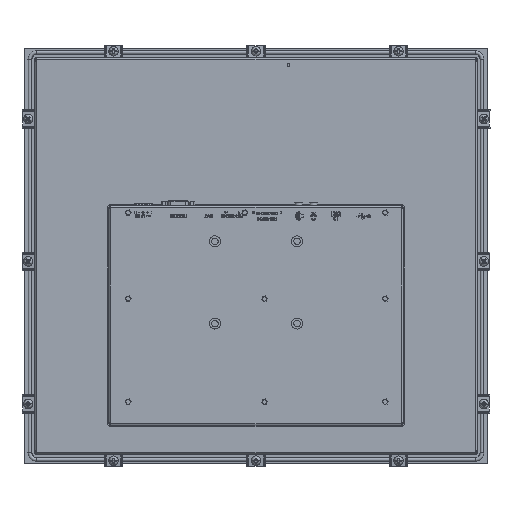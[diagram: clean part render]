
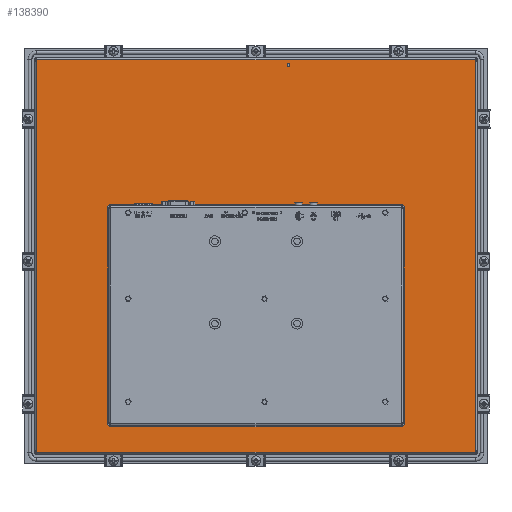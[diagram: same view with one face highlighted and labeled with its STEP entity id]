
A CAD part, front view. The second image highlights one B-rep face of the part: STEP entity #138390.
In plain terms, the highlighted planar face has unit normal (0, -1, 0).
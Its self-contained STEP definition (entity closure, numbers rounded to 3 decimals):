
#2154 = VERTEX_POINT ( 'NONE', #96864 ) ;
#4152 = EDGE_CURVE ( 'NONE', #139668, #29497, #142803, .T. ) ;
#5804 = DIRECTION ( 'NONE',  ( 0.707, 0., -0.707 ) ) ;
#9544 = DIRECTION ( 'NONE',  ( 0., 0., -1. ) ) ;
#10501 = CARTESIAN_POINT ( 'NONE',  ( 199.95, -15.75, 4.952 ) ) ;
#10710 = CARTESIAN_POINT ( 'NONE',  ( 135.25, -15.75, -148.698 ) ) ;
#11271 = EDGE_CURVE ( 'NONE', #89144, #19453, #99716, .T. ) ;
#11767 = LINE ( 'NONE', #77393, #55132 ) ;
#14535 = VECTOR ( 'NONE', #140132, 1000. ) ;
#15102 = LINE ( 'NONE', #84314, #62983 ) ;
#16590 = ORIENTED_EDGE ( 'NONE', *, *, #22568, .T. ) ;
#17271 = DIRECTION ( 'NONE',  ( 0., 0., 1. ) ) ;
#18717 = EDGE_CURVE ( 'NONE', #90326, #61122, #30271, .T. ) ;
#19453 = VERTEX_POINT ( 'NONE', #124541 ) ;
#20458 = CARTESIAN_POINT ( 'NONE',  ( 0., -15.75, 183.802 ) ) ;
#22568 = EDGE_CURVE ( 'NONE', #2154, #69998, #11767, .T. ) ;
#23054 = VERTEX_POINT ( 'NONE', #10710 ) ;
#24664 = ORIENTED_EDGE ( 'NONE', *, *, #18717, .T. ) ;
#26215 = VERTEX_POINT ( 'NONE', #94415 ) ;
#29043 = EDGE_CURVE ( 'NONE', #19453, #108483, #15102, .T. ) ;
#29497 = VERTEX_POINT ( 'NONE', #108664 ) ;
#30271 = LINE ( 'NONE', #128546, #126067 ) ;
#31359 = VECTOR ( 'NONE', #120778, 1000. ) ;
#32128 = ORIENTED_EDGE ( 'NONE', *, *, #29043, .T. ) ;
#34162 = CARTESIAN_POINT ( 'NONE',  ( 199.95, -15.75, 4.952 ) ) ;
#34817 = VECTOR ( 'NONE', #67157, 1000. ) ;
#37281 = ORIENTED_EDGE ( 'NONE', *, *, #97138, .T. ) ;
#37558 = CARTESIAN_POINT ( 'NONE',  ( 144.45, -15.75, -139.498 ) ) ;
#40474 = FACE_OUTER_BOUND ( 'NONE', #53590, .T. ) ;
#40503 = LINE ( 'NONE', #63805, #14535 ) ;
#41801 = CARTESIAN_POINT ( 'NONE',  ( 199.95, -15.75, 183.802 ) ) ;
#41995 = CARTESIAN_POINT ( 'NONE',  ( -135.25, -15.75, -148.698 ) ) ;
#43459 = ORIENTED_EDGE ( 'NONE', *, *, #127985, .T. ) ;
#43840 = VECTOR ( 'NONE', #76576, 1000. ) ;
#46038 = CARTESIAN_POINT ( 'NONE',  ( -199.95, -15.75, 4.952 ) ) ;
#48269 = VECTOR ( 'NONE', #73731, 1000. ) ;
#50708 = EDGE_CURVE ( 'NONE', #26215, #68135, #75881, .T. ) ;
#51093 = ORIENTED_EDGE ( 'NONE', *, *, #140792, .T. ) ;
#52929 = VERTEX_POINT ( 'NONE', #41995 ) ;
#53408 = DIRECTION ( 'NONE',  ( -1., 0., 0. ) ) ;
#53590 = EDGE_LOOP ( 'NONE', ( #124489, #84735, #128241, #32128, #102610, #95062, #136188, #108968 ) ) ;
#55132 = VECTOR ( 'NONE', #53408, 1000. ) ;
#55475 = LINE ( 'NONE', #20458, #43840 ) ;
#58958 = CARTESIAN_POINT ( 'NONE',  ( 133.25, -15.75, 51.802 ) ) ;
#61122 = VERTEX_POINT ( 'NONE', #58958 ) ;
#62983 = VECTOR ( 'NONE', #17271, 1000. ) ;
#63075 = CARTESIAN_POINT ( 'NONE',  ( -135.25, -15.75, -150.698 ) ) ;
#63774 = DIRECTION ( 'NONE',  ( -1., 0., 0. ) ) ;
#63805 = CARTESIAN_POINT ( 'NONE',  ( -90.05, -15.75, 95.002 ) ) ;
#65493 = CARTESIAN_POINT ( 'NONE',  ( 135.25, -15.75, 49.802 ) ) ;
#65989 = CARTESIAN_POINT ( 'NONE',  ( -199.95, -15.75, 183.802 ) ) ;
#66266 = EDGE_CURVE ( 'NONE', #69998, #52929, #128940, .T. ) ;
#67157 = DIRECTION ( 'NONE',  ( 0., 0., -1. ) ) ;
#67380 = EDGE_CURVE ( 'NONE', #68135, #89144, #110312, .T. ) ;
#68135 = VERTEX_POINT ( 'NONE', #85812 ) ;
#68438 = EDGE_CURVE ( 'NONE', #52929, #96465, #98002, .T. ) ;
#69998 = VERTEX_POINT ( 'NONE', #116605 ) ;
#70913 = EDGE_CURVE ( 'NONE', #29497, #121868, #141412, .T. ) ;
#72425 = CARTESIAN_POINT ( 'NONE',  ( -199.95, -15.75, 4.952 ) ) ;
#72835 = LINE ( 'NONE', #84479, #88035 ) ;
#73731 = DIRECTION ( 'NONE',  ( 1., 0., 0. ) ) ;
#75881 = LINE ( 'NONE', #118096, #48269 ) ;
#76576 = DIRECTION ( 'NONE',  ( -1., 0., 0. ) ) ;
#77393 = CARTESIAN_POINT ( 'NONE',  ( -135.25, -15.75, -150.698 ) ) ;
#78752 = CARTESIAN_POINT ( 'NONE',  ( -199.95, -15.75, 4.952 ) ) ;
#80331 = VECTOR ( 'NONE', #112459, 1000. ) ;
#82868 = CARTESIAN_POINT ( 'NONE',  ( -135.25, -15.75, 49.802 ) ) ;
#82888 = CARTESIAN_POINT ( 'NONE',  ( 135.25, -15.75, -150.698 ) ) ;
#84095 = EDGE_CURVE ( 'NONE', #108483, #139668, #55475, .T. ) ;
#84187 = DIRECTION ( 'NONE',  ( 1., 0., 0. ) ) ;
#84314 = CARTESIAN_POINT ( 'NONE',  ( 199.95, -15.75, 4.952 ) ) ;
#84479 = CARTESIAN_POINT ( 'NONE',  ( 90.05, -15.75, 95.002 ) ) ;
#84590 = VECTOR ( 'NONE', #105070, 1000. ) ;
#84735 = ORIENTED_EDGE ( 'NONE', *, *, #67380, .T. ) ;
#84895 = PLANE ( 'NONE',  #104144 ) ;
#85270 = EDGE_LOOP ( 'NONE', ( #24664, #37281, #103543, #51093, #16590, #103379, #87873, #43459 ) ) ;
#85812 = CARTESIAN_POINT ( 'NONE',  ( 199.95, -15.75, -173.898 ) ) ;
#87481 = LINE ( 'NONE', #78752, #114682 ) ;
#87873 = ORIENTED_EDGE ( 'NONE', *, *, #68438, .T. ) ;
#88035 = VECTOR ( 'NONE', #5804, 1000. ) ;
#89144 = VERTEX_POINT ( 'NONE', #90194 ) ;
#90194 = CARTESIAN_POINT ( 'NONE',  ( 199.95, -15.75, -172.927 ) ) ;
#90326 = VERTEX_POINT ( 'NONE', #114240 ) ;
#94415 = CARTESIAN_POINT ( 'NONE',  ( -199.95, -15.75, -173.898 ) ) ;
#94668 = EDGE_CURVE ( 'NONE', #121868, #26215, #87481, .T. ) ;
#95062 = ORIENTED_EDGE ( 'NONE', *, *, #4152, .T. ) ;
#96465 = VERTEX_POINT ( 'NONE', #82868 ) ;
#96864 = CARTESIAN_POINT ( 'NONE',  ( 133.25, -15.75, -150.698 ) ) ;
#97138 = EDGE_CURVE ( 'NONE', #61122, #119953, #72835, .T. ) ;
#97478 = CARTESIAN_POINT ( 'NONE',  ( -199.95, -15.75, -172.927 ) ) ;
#97873 = DIRECTION ( 'NONE',  ( 0., 0., -1. ) ) ;
#98002 = LINE ( 'NONE', #63075, #108452 ) ;
#99716 = LINE ( 'NONE', #34162, #31359 ) ;
#102610 = ORIENTED_EDGE ( 'NONE', *, *, #84095, .T. ) ;
#103379 = ORIENTED_EDGE ( 'NONE', *, *, #66266, .T. ) ;
#103543 = ORIENTED_EDGE ( 'NONE', *, *, #126497, .T. ) ;
#104144 = AXIS2_PLACEMENT_3D ( 'NONE', #129949, #138666, #63774 ) ;
#105070 = DIRECTION ( 'NONE',  ( -0.707, 0., 0.707 ) ) ;
#107476 = DIRECTION ( 'NONE',  ( 0., 0., 1. ) ) ;
#108452 = VECTOR ( 'NONE', #107476, 1000. ) ;
#108483 = VERTEX_POINT ( 'NONE', #41801 ) ;
#108664 = CARTESIAN_POINT ( 'NONE',  ( -199.95, -15.75, 182.831 ) ) ;
#108968 = ORIENTED_EDGE ( 'NONE', *, *, #94668, .T. ) ;
#109048 = VECTOR ( 'NONE', #113277, 1000. ) ;
#110312 = LINE ( 'NONE', #10501, #80331 ) ;
#112459 = DIRECTION ( 'NONE',  ( 0., 0., 1. ) ) ;
#112574 = LINE ( 'NONE', #37558, #109048 ) ;
#113277 = DIRECTION ( 'NONE',  ( -0.707, 0., -0.707 ) ) ;
#114240 = CARTESIAN_POINT ( 'NONE',  ( -133.25, -15.75, 51.802 ) ) ;
#114682 = VECTOR ( 'NONE', #9544, 1000. ) ;
#115598 = LINE ( 'NONE', #82888, #129972 ) ;
#116605 = CARTESIAN_POINT ( 'NONE',  ( -133.25, -15.75, -150.698 ) ) ;
#118096 = CARTESIAN_POINT ( 'NONE',  ( 0., -15.75, -173.898 ) ) ;
#119953 = VERTEX_POINT ( 'NONE', #65493 ) ;
#120778 = DIRECTION ( 'NONE',  ( 0., 0., 1. ) ) ;
#121868 = VERTEX_POINT ( 'NONE', #97478 ) ;
#123656 = VECTOR ( 'NONE', #97873, 1000. ) ;
#124489 = ORIENTED_EDGE ( 'NONE', *, *, #50708, .T. ) ;
#124541 = CARTESIAN_POINT ( 'NONE',  ( 199.95, -15.75, 182.831 ) ) ;
#126067 = VECTOR ( 'NONE', #84187, 1000. ) ;
#126103 = CARTESIAN_POINT ( 'NONE',  ( -144.45, -15.75, -139.498 ) ) ;
#126497 = EDGE_CURVE ( 'NONE', #119953, #23054, #115598, .T. ) ;
#127985 = EDGE_CURVE ( 'NONE', #96465, #90326, #40503, .T. ) ;
#128241 = ORIENTED_EDGE ( 'NONE', *, *, #11271, .T. ) ;
#128546 = CARTESIAN_POINT ( 'NONE',  ( -135.25, -15.75, 51.802 ) ) ;
#128940 = LINE ( 'NONE', #126103, #84590 ) ;
#129215 = FACE_BOUND ( 'NONE', #85270, .T. ) ;
#129949 = CARTESIAN_POINT ( 'NONE',  ( 0., -15.75, 4.952 ) ) ;
#129972 = VECTOR ( 'NONE', #138794, 1000. ) ;
#136188 = ORIENTED_EDGE ( 'NONE', *, *, #70913, .T. ) ;
#138390 = ADVANCED_FACE ( 'NONE', ( #40474, #129215 ), #84895, .F. ) ;
#138666 = DIRECTION ( 'NONE',  ( 0., 1., 0. ) ) ;
#138794 = DIRECTION ( 'NONE',  ( 0., 0., -1. ) ) ;
#139668 = VERTEX_POINT ( 'NONE', #65989 ) ;
#140132 = DIRECTION ( 'NONE',  ( 0.707, 0., 0.707 ) ) ;
#140792 = EDGE_CURVE ( 'NONE', #23054, #2154, #112574, .T. ) ;
#141412 = LINE ( 'NONE', #72425, #123656 ) ;
#142803 = LINE ( 'NONE', #46038, #34817 ) ;
